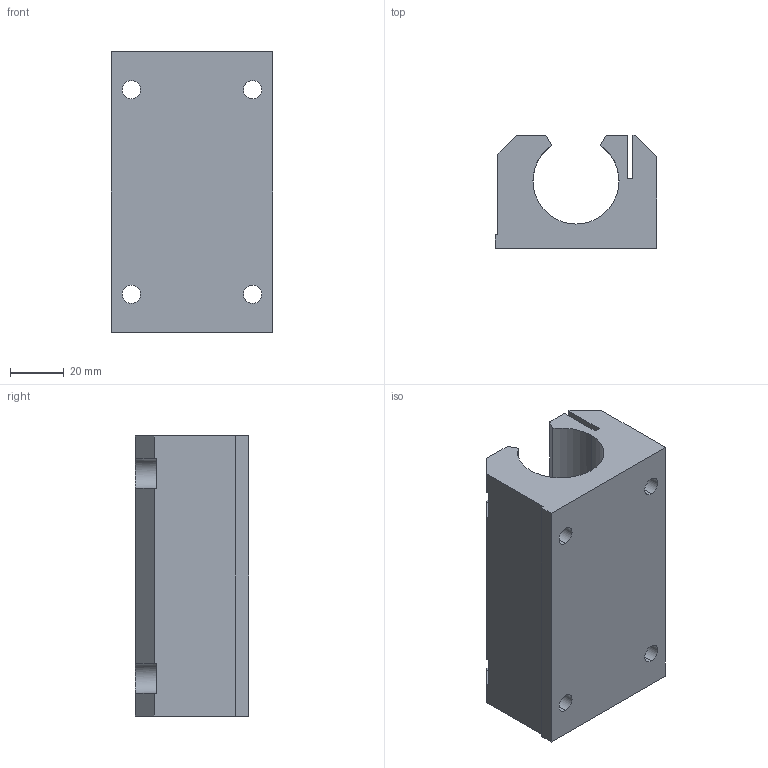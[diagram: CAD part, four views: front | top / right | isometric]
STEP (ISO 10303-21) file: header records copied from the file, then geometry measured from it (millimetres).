
FILE_DESCRIPTION (( 'STEP AP214' ), '1' );
FILE_NAME ('KTGOE34-20.step', '2020-03-04T13:29:10', ( '' ), ( '' ), 'SwSTEP 2.0', 'SolidWorks 2019', '' );
FILE_SCHEMA (( 'AUTOMOTIVE_DESIGN' ));
Length unit declared in the file: millimetre
Products named in the file (1): KTGOE34-20
Bounding box: 60 x 42 x 104 mm (x, y, z)
Volume: 151738.8 mm3; surface area: 37308.9 mm2
Topology: 1 solids, 1 shells, 81 faces, 243 edges, 158 vertices
Faces by surface type: plane 43, cylinder 35, cone 3
Entity records: 3152 total; most frequent: CARTESIAN_POINT 685, ORIENTED_EDGE 486, DIRECTION 456, EDGE_CURVE 243, VERTEX_POINT 158, AXIS2_PLACEMENT_3D 153, LINE 150, VECTOR 150
